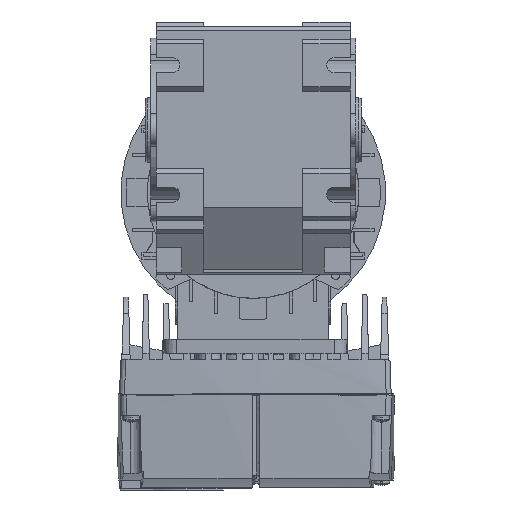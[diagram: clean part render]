
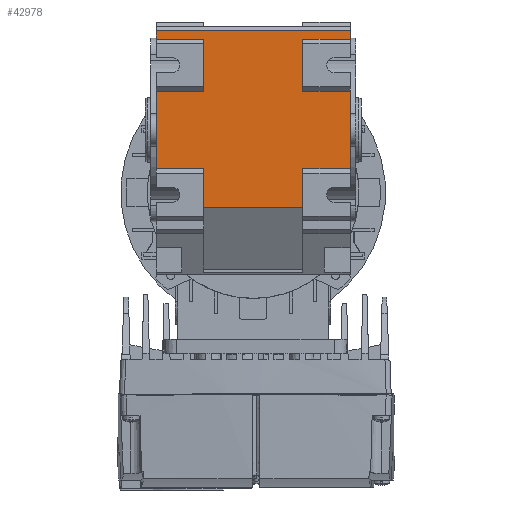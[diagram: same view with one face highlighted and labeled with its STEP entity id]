
A CAD part, left-side view. The second image highlights one B-rep face of the part: STEP entity #42978.
In plain terms, the highlighted planar face has unit normal (-1, 0, 0).
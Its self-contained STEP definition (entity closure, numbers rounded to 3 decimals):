
#1624=PLANE('',#45456);
#3619=FACE_OUTER_BOUND('',#5975,.T.);
#5975=EDGE_LOOP('',(#30406,#30407,#30408,#30409,#30410,#30411,#30412,#30413,
#30414,#30415,#30416,#30417,#30418,#30419,#30420,#30421));
#9663=LINE('',#60686,#14197);
#9667=LINE('',#60692,#14201);
#9668=LINE('',#60695,#14202);
#9670=LINE('',#60699,#14204);
#9675=LINE('',#60709,#14209);
#9678=LINE('',#60715,#14212);
#9738=LINE('',#60861,#14272);
#9741=LINE('',#60867,#14275);
#9743=LINE('',#60870,#14277);
#9826=LINE('',#61046,#14360);
#9827=LINE('',#61049,#14361);
#9849=LINE('',#61099,#14383);
#9853=LINE('',#61107,#14387);
#9854=LINE('',#61109,#14388);
#9855=LINE('',#61110,#14389);
#9856=LINE('',#61111,#14390);
#14197=VECTOR('',#49191,1.);
#14201=VECTOR('',#49197,1.);
#14202=VECTOR('',#49200,1.);
#14204=VECTOR('',#49204,1.);
#14209=VECTOR('',#49211,1.);
#14212=VECTOR('',#49216,1.);
#14272=VECTOR('',#49354,1.);
#14275=VECTOR('',#49359,1.);
#14277=VECTOR('',#49363,1.);
#14360=VECTOR('',#49536,1.);
#14361=VECTOR('',#49539,1.);
#14383=VECTOR('',#49587,1.);
#14387=VECTOR('',#49593,1.);
#14388=VECTOR('',#49594,1.);
#14389=VECTOR('',#49595,1.);
#14390=VECTOR('',#49596,1.);
#18743=VERTEX_POINT('',#60683);
#18744=VERTEX_POINT('',#60685);
#18745=VERTEX_POINT('',#60690);
#18746=VERTEX_POINT('',#60694);
#18747=VERTEX_POINT('',#60698);
#18748=VERTEX_POINT('',#60702);
#18751=VERTEX_POINT('',#60707);
#18753=VERTEX_POINT('',#60712);
#18800=VERTEX_POINT('',#60859);
#18802=VERTEX_POINT('',#60865);
#18850=VERTEX_POINT('',#61044);
#18851=VERTEX_POINT('',#61048);
#18865=VERTEX_POINT('',#61097);
#18866=VERTEX_POINT('',#61098);
#18869=VERTEX_POINT('',#61106);
#18870=VERTEX_POINT('',#61108);
#23236=EDGE_CURVE('',#18744,#18743,#9663,.T.);
#23240=EDGE_CURVE('',#18745,#18744,#9667,.T.);
#23241=EDGE_CURVE('',#18745,#18746,#9668,.T.);
#23243=EDGE_CURVE('',#18746,#18747,#9670,.T.);
#23248=EDGE_CURVE('',#18751,#18748,#9675,.T.);
#23251=EDGE_CURVE('',#18753,#18748,#9678,.T.);
#23324=EDGE_CURVE('',#18751,#18800,#9738,.T.);
#23327=EDGE_CURVE('',#18800,#18802,#9741,.T.);
#23329=EDGE_CURVE('',#18802,#18747,#9743,.T.);
#23418=EDGE_CURVE('',#18850,#18743,#9826,.T.);
#23419=EDGE_CURVE('',#18851,#18753,#9827,.T.);
#23444=EDGE_CURVE('',#18865,#18866,#9849,.T.);
#23448=EDGE_CURVE('',#18866,#18869,#9853,.T.);
#23449=EDGE_CURVE('',#18870,#18869,#9854,.T.);
#23450=EDGE_CURVE('',#18870,#18851,#9855,.T.);
#23451=EDGE_CURVE('',#18865,#18850,#9856,.T.);
#30406=ORIENTED_EDGE('',*,*,#23444,.T.);
#30407=ORIENTED_EDGE('',*,*,#23448,.T.);
#30408=ORIENTED_EDGE('',*,*,#23449,.F.);
#30409=ORIENTED_EDGE('',*,*,#23450,.T.);
#30410=ORIENTED_EDGE('',*,*,#23419,.T.);
#30411=ORIENTED_EDGE('',*,*,#23251,.T.);
#30412=ORIENTED_EDGE('',*,*,#23248,.F.);
#30413=ORIENTED_EDGE('',*,*,#23324,.T.);
#30414=ORIENTED_EDGE('',*,*,#23327,.T.);
#30415=ORIENTED_EDGE('',*,*,#23329,.T.);
#30416=ORIENTED_EDGE('',*,*,#23243,.F.);
#30417=ORIENTED_EDGE('',*,*,#23241,.F.);
#30418=ORIENTED_EDGE('',*,*,#23240,.T.);
#30419=ORIENTED_EDGE('',*,*,#23236,.T.);
#30420=ORIENTED_EDGE('',*,*,#23418,.F.);
#30421=ORIENTED_EDGE('',*,*,#23451,.F.);
#42978=ADVANCED_FACE('',(#3619),#1624,.T.);
#45456=AXIS2_PLACEMENT_3D('',#61105,#49591,#49592);
#49191=DIRECTION('',(0.,0.,-1.));
#49197=DIRECTION('',(0.,1.,0.));
#49200=DIRECTION('',(0.,0.,1.));
#49204=DIRECTION('',(0.,1.,0.));
#49211=DIRECTION('',(0.,1.,0.));
#49216=DIRECTION('',(0.,0.,1.));
#49354=DIRECTION('',(0.,0.,1.));
#49359=DIRECTION('',(0.,1.,0.));
#49363=DIRECTION('',(0.,0.,-1.));
#49536=DIRECTION('',(0.,1.,0.));
#49539=DIRECTION('',(0.,1.,0.));
#49587=DIRECTION('',(0.,-1.,0.));
#49591=DIRECTION('center_axis',(-1.,0.,0.));
#49592=DIRECTION('ref_axis',(0.,1.,0.));
#49593=DIRECTION('',(0.,0.,1.));
#49594=DIRECTION('',(0.,1.,0.));
#49595=DIRECTION('',(0.,0.,1.));
#49596=DIRECTION('',(0.,0.,1.));
#60683=CARTESIAN_POINT('',(-130.5,45.,11.));
#60685=CARTESIAN_POINT('',(-130.5,45.,47.));
#60686=CARTESIAN_POINT('',(-130.5,45.,11.));
#60690=CARTESIAN_POINT('',(-130.5,23.,47.));
#60692=CARTESIAN_POINT('',(-130.5,-45.,47.));
#60694=CARTESIAN_POINT('',(-130.5,23.,71.));
#60695=CARTESIAN_POINT('',(-130.5,23.,30.));
#60698=CARTESIAN_POINT('',(-130.5,45.,71.));
#60699=CARTESIAN_POINT('',(-130.5,-45.,71.));
#60702=CARTESIAN_POINT('',(-130.5,-23.,71.));
#60707=CARTESIAN_POINT('',(-130.5,-45.,71.));
#60709=CARTESIAN_POINT('',(-130.5,-45.,71.));
#60712=CARTESIAN_POINT('',(-130.5,-23.,47.));
#60715=CARTESIAN_POINT('',(-130.5,-23.,30.));
#60859=CARTESIAN_POINT('',(-130.5,-45.,75.));
#60861=CARTESIAN_POINT('',(-130.5,-45.,71.));
#60865=CARTESIAN_POINT('',(-130.5,45.,75.));
#60867=CARTESIAN_POINT('',(-130.5,-45.,75.));
#60870=CARTESIAN_POINT('',(-130.5,45.,71.));
#61044=CARTESIAN_POINT('',(-130.5,23.,11.));
#61046=CARTESIAN_POINT('',(-130.5,-45.,11.));
#61048=CARTESIAN_POINT('',(-130.5,-45.,47.));
#61049=CARTESIAN_POINT('',(-130.5,-45.,47.));
#61097=CARTESIAN_POINT('',(-130.5,23.,-6.987));
#61098=CARTESIAN_POINT('',(-130.5,-23.,-6.987));
#61099=CARTESIAN_POINT('',(-130.5,-34.,-6.987));
#61105=CARTESIAN_POINT('Origin',(-130.5,-45.,-13.));
#61106=CARTESIAN_POINT('',(-130.5,-23.,11.));
#61107=CARTESIAN_POINT('',(-130.5,-23.,30.));
#61108=CARTESIAN_POINT('',(-130.5,-45.,11.));
#61109=CARTESIAN_POINT('',(-130.5,-45.,11.));
#61110=CARTESIAN_POINT('',(-130.5,-45.,11.));
#61111=CARTESIAN_POINT('',(-130.5,23.,30.));
